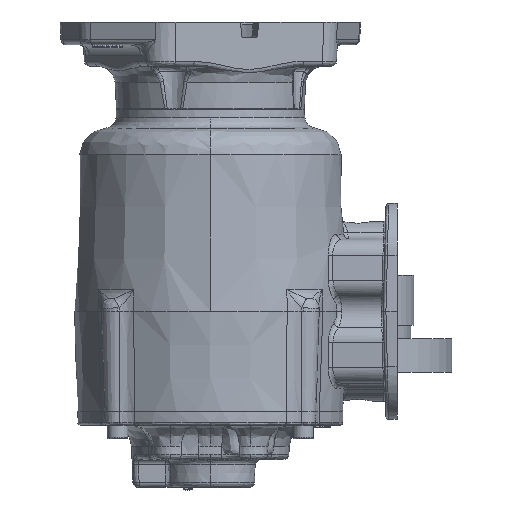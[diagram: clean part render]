
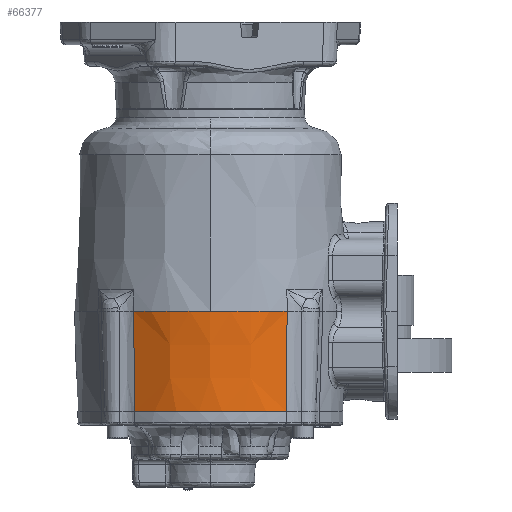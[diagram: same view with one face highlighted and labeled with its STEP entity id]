
A CAD part, left-side view. The second image highlights one B-rep face of the part: STEP entity #66377.
In plain terms, the highlighted conical face has half-angle 2 degrees and reference radius 78.232 mm.
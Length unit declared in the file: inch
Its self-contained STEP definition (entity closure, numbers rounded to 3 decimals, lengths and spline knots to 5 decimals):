
#6901 = ORIENTED_EDGE ( 'NONE', *, *, #77303, .T. ) ;
#6907 = ORIENTED_EDGE ( 'NONE', *, *, #77290, .T. ) ;
#6911 = ORIENTED_EDGE ( 'NONE', *, *, #77233, .F. ) ;
#6917 = ORIENTED_EDGE ( 'NONE', *, *, #77231, .F. ) ;
#6933 = ORIENTED_EDGE ( 'NONE', *, *, #155758, .F. ) ;
#13014 = EDGE_LOOP ( 'NONE', ( #6933, #6907, #6911, #6901, #6917 ) ) ;
#14472 = VERTEX_POINT ( 'NONE', #125714 ) ;
#14486 = VERTEX_POINT ( 'NONE', #125721 ) ;
#14504 = VERTEX_POINT ( 'NONE', #125730 ) ;
#16619 = CIRCLE ( 'NONE', #16623, 3.08 ) ;
#16623 = AXIS2_PLACEMENT_3D ( 'NONE', #60171, #60173, #60175 ) ;
#32824 = CARTESIAN_POINT ( 'NONE',  ( -0.32707, 0.03727, -0.86956 ) ) ;
#32825 = DIRECTION ( 'NONE',  ( 0., 0., 1. ) ) ;
#32826 = DIRECTION ( 'NONE',  ( 1., 0., 0. ) ) ;
#32828 = CARTESIAN_POINT ( 'NONE',  ( -0.32707, 0.03727, -3.13406 ) ) ;
#32829 = DIRECTION ( 'NONE',  ( 0., 0., -1. ) ) ;
#32830 = DIRECTION ( 'NONE',  ( 1., 0., 0. ) ) ;
#32931 = CARTESIAN_POINT ( 'NONE',  ( -2.87096, 1.77365, -0.86956 ) ) ;
#32933 = CARTESIAN_POINT ( 'NONE',  ( -2.84382, 1.76533, -1.64577 ) ) ;
#32937 = CARTESIAN_POINT ( 'NONE',  ( -2.81732, 1.75734, -2.4006 ) ) ;
#32938 = CARTESIAN_POINT ( 'NONE',  ( -2.79144, 1.7497, -3.13406 ) ) ;
#32968 = CARTESIAN_POINT ( 'NONE',  ( -2.79144, -1.67515, -3.13406 ) ) ;
#32969 = CARTESIAN_POINT ( 'NONE',  ( -2.81732, -1.6828, -2.4006 ) ) ;
#32974 = CARTESIAN_POINT ( 'NONE',  ( -2.84382, -1.69078, -1.64577 ) ) ;
#32975 = CARTESIAN_POINT ( 'NONE',  ( -2.87096, -1.6991, -0.86956 ) ) ;
#38472 = CARTESIAN_POINT ( 'NONE',  ( -3.40707, 0.03727, -0.86956 ) ) ;
#38476 = CARTESIAN_POINT ( 'NONE',  ( -2.87096, 1.77365, -0.86956 ) ) ;
#60171 = CARTESIAN_POINT ( 'NONE',  ( -0.32707, 0.03727, -0.86956 ) ) ;
#60173 = DIRECTION ( 'NONE',  ( 0., 0., 1. ) ) ;
#60175 = DIRECTION ( 'NONE',  ( 1., 0., 0. ) ) ;
#66377 = ADVANCED_FACE ( 'NONE', ( #97085 ), #69727, .T. ) ;
#69727 = CONICAL_SURFACE ( 'NONE', #69729, 3.08, 0.035 ) ;
#69729 = AXIS2_PLACEMENT_3D ( 'NONE', #97094, #97088, #97074 ) ;
#77231 = EDGE_CURVE ( 'NONE', #125575, #14486, #154743, .T. ) ;
#77233 = EDGE_CURVE ( 'NONE', #14472, #14504, #154748, .T. ) ;
#77290 = EDGE_CURVE ( 'NONE', #125577, #14504, #93091, .T. ) ;
#77303 = EDGE_CURVE ( 'NONE', #14472, #14486, #93096, .T. ) ;
#93091 = B_SPLINE_CURVE_WITH_KNOTS ( 'NONE', 3,
 ( #32931, #32933, #32937, #32938 ),
 .UNSPECIFIED., .F., .F.,
 ( 4, 4 ),
 ( 0., 1. ),
 .UNSPECIFIED. ) ;
#93096 = B_SPLINE_CURVE_WITH_KNOTS ( 'NONE', 3,
 ( #32968, #32969, #32974, #32975 ),
 .UNSPECIFIED., .F., .F.,
 ( 4, 4 ),
 ( 0., 1. ),
 .UNSPECIFIED. ) ;
#97074 = DIRECTION ( 'NONE',  ( 1., 0., 0. ) ) ;
#97085 = FACE_OUTER_BOUND ( 'NONE', #13014, .T. ) ;
#97088 = DIRECTION ( 'NONE',  ( 0., 0., 1. ) ) ;
#97094 = CARTESIAN_POINT ( 'NONE',  ( -0.32707, 0.03727, -0.86956 ) ) ;
#125575 = VERTEX_POINT ( 'NONE', #38472 ) ;
#125577 = VERTEX_POINT ( 'NONE', #38476 ) ;
#125714 = CARTESIAN_POINT ( 'NONE',  ( -2.79144, -1.67515, -3.13406 ) ) ;
#125721 = CARTESIAN_POINT ( 'NONE',  ( -2.87096, -1.6991, -0.86956 ) ) ;
#125730 = CARTESIAN_POINT ( 'NONE',  ( -2.79144, 1.7497, -3.13406 ) ) ;
#154743 = CIRCLE ( 'NONE', #154751, 3.08 ) ;
#154748 = CIRCLE ( 'NONE', #154757, 3.00092 ) ;
#154751 = AXIS2_PLACEMENT_3D ( 'NONE', #32824, #32825, #32826 ) ;
#154757 = AXIS2_PLACEMENT_3D ( 'NONE', #32828, #32829, #32830 ) ;
#155758 = EDGE_CURVE ( 'NONE', #125577, #125575, #16619, .T. ) ;
